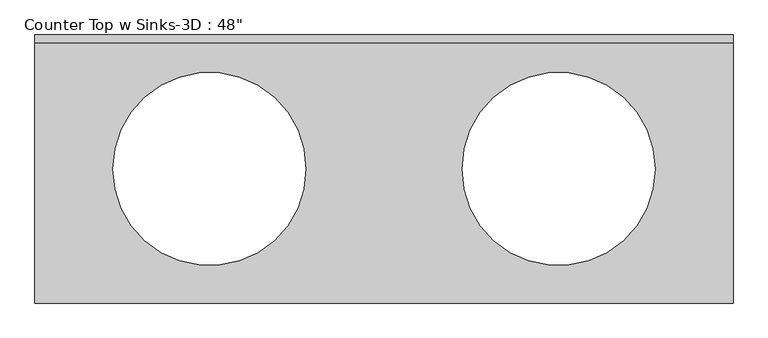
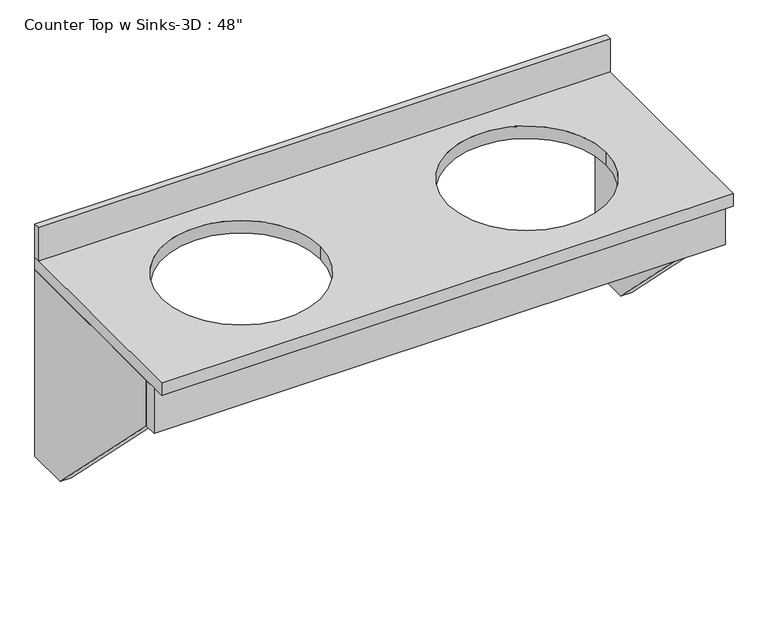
"""IFC4 building model written with IfcOpenShell, lengths in millimetres: furniture geometry."""

from ifc_helpers import new_model, si_unit, point, frame, frame_2d, origin, place, context, project, spatial, polyline, circle_curve, trimmed, segment, composite_curve, outline, extrude, source, transform, mapped, element, save


def furniture_e90efae6(model_context):
    return source(origin(), model_context, "Body", "SweptSolid", [
        extrude(outline(polyline([(-152.4, 825.5), (-152.4, 254.0), (-279.4, 254.0), (-711.2, 685.8), (-711.2, 825.5), (-152.4, 825.5)])), frame((-1116.1103038, 0.0, 0.0), z_axis=(1.0, 0.0, 0.0), x_axis=(0.0, 1.0, 0.0)), (0.0, 0.0, 1.0), 31.75),
        extrude(outline(polyline([(-152.4, 825.5), (-152.4, 254.0), (-279.4, 254.0), (-711.2, 685.8), (-711.2, 825.5), (-152.4, 825.5)])), frame((505.8814938, 0.0, 0.0), z_axis=(1.0, 0.0, 0.0), x_axis=(0.0, 1.0, 0.0)), (0.0, 0.0, 1.0), 31.75),
        extrude(outline(polyline([(-1116.1103038, -711.2), (537.6314938, -711.2), (537.6314938, -749.3), (-1116.1103038, -749.3), (-1116.1103038, -711.2)])), frame((0.0, 0.0, 685.8), z_axis=(0.0, 0.0, 1.0), x_axis=(1.0, 0.0, 0.0)), (0.0, 0.0, 1.0), 139.7),
        extrude(outline(polyline([(537.6314938, -152.4), (537.6314938, -171.45), (-1116.1103038, -171.45), (-1116.1103038, -152.4), (537.6314938, -152.4)])), frame((0.0, 0.0, 863.6), z_axis=(0.0, 0.0, 1.0), x_axis=(1.0, 0.0, 0.0)), (0.0, 0.0, 1.0), 101.6),
        extrude(outline(polyline([(537.6314938, -152.4), (537.6314938, -787.4), (-1116.1103038, -787.4), (-1116.1103038, -152.4), (537.6314938, -152.4)]), holes=[composite_curve([segment(trimmed(circle_curve(frame_2d((-702.6748544, -469.9)), 228.6), [point((-931.2748544, -469.9))], [point((-474.0748544, -469.9))], True, "CARTESIAN"), True, "CONTINUOUS"), segment(trimmed(circle_curve(frame_2d((-702.6748544, -469.9)), 228.6), [point((-474.0748544, -469.9))], [point((-931.2748544, -469.9))], True, "CARTESIAN"), True, "CONTINUOUS")], self_intersect=False), composite_curve([segment(trimmed(circle_curve(frame_2d((124.1960444, -469.9)), 228.6), [point((-104.4039556, -469.9))], [point((352.7960444, -469.9))], True, "CARTESIAN"), True, "CONTINUOUS"), segment(trimmed(circle_curve(frame_2d((124.1960444, -469.9)), 228.6), [point((352.7960444, -469.9))], [point((-104.4039556, -469.9))], True, "CARTESIAN"), True, "CONTINUOUS")], self_intersect=False)]), frame((0.0, 0.0, 825.5), z_axis=(0.0, 0.0, 1.0), x_axis=(1.0, 0.0, 0.0)), (0.0, 0.0, 1.0), 38.1),
    ])


if __name__ == "__main__":
    model = new_model("IFC4")
    model_context = context("Model", 3, world=origin())
    ifc_project = project(units=[si_unit("LENGTHUNIT", "METRE", prefix="MILLI")], contexts=[model_context])
    site = spatial("IfcSite", under=ifc_project)
    building = spatial("IfcBuilding", under=site)
    placement = place(None, origin())
    furniture_shape = furniture_e90efae6(model_context)
    element("IfcFurniture", 1, ObjectType="Counter Top w Sinks-3D : 48\"", at=placement, inside=building, context=model_context, shape_type="MappedRepresentation", body=[
        mapped(furniture_shape, transform((0.0, 0.0, 0.0), x_axis=(1.0, 0.0, 0.0), y_axis=(0.0, 1.0, 0.0), z_axis=(0.0, 0.0, 1.0))),
    ])
    save(model, "model.ifc")
